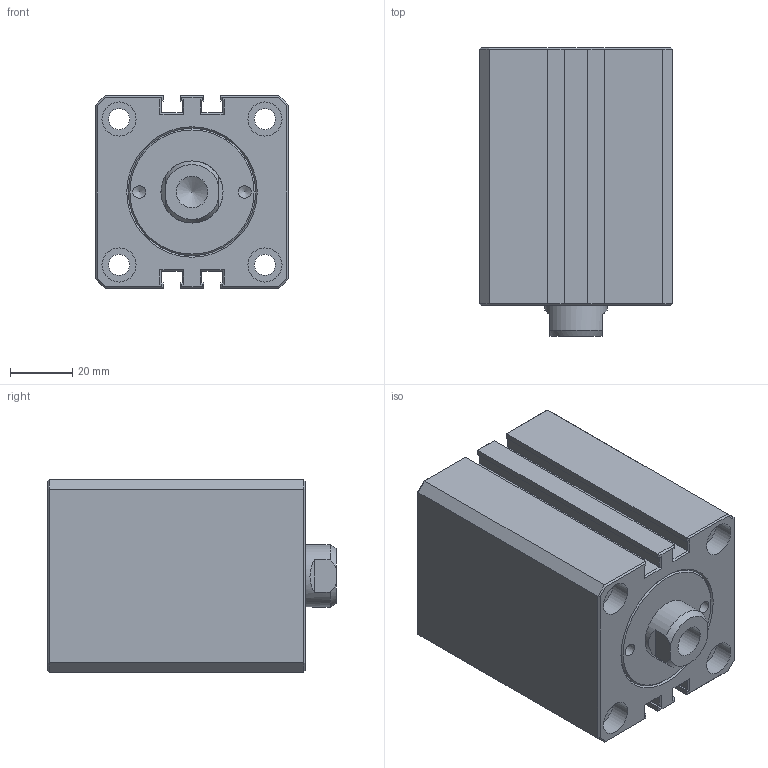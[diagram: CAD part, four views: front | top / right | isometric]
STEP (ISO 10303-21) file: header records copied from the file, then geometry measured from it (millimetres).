
FILE_DESCRIPTION(/* description */ ('Unknown'),/* implementation_level */ '2;1');
FILE_NAME(/* name */ 'HTM140-SD32X10N',/* time_stamp */ '2022-09-01T01:27:33+08:00',/* author */ ('Unknown'),/* organization */ ('Unknown'),/* preprocessor_version */ 'ST-DEVELOPER v16.7',/* originating_system */ 'DEX',/* authorisation */ $);
FILE_SCHEMA (('AUTOMOTIVE_DESIGN {1 0 10303 214 3 1 1}'));
Length unit declared in the file: millimetre
Products named in the file (1): HTM140-SD32X10N
Bounding box: 62 x 93 x 62 mm (x, y, z)
Volume: 288984.4 mm3; surface area: 41455.8 mm2
Topology: 1 solids, 1 shells, 187 faces, 430 edges, 259 vertices
Faces by surface type: plane 140, cylinder 19, cone 16, bspline 12
Full cylindrical faces by diameter (mm): 4.1 x2, 6 x1, 6.8 x4, 10.106 x1, 11 x8, 12.301 x2, 20 x1
Entity records: 6351 total; most frequent: CARTESIAN_POINT 1059, ORIENTED_EDGE 778, DIRECTION 768, EDGE_CURVE 389, LINE 294, VECTOR 294, VERTEX_POINT 248, FACE_BOUND 239
